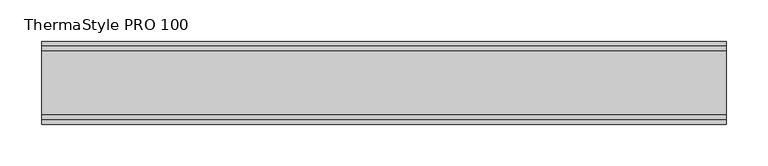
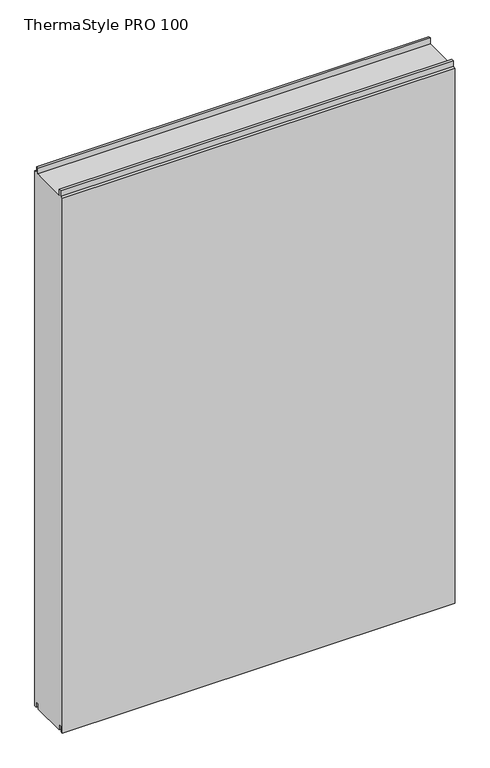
"""IFC4 building model written with IfcOpenShell, lengths in millimetres: plate geometry, Europanels_ThermaStyle PRO_Hz : ThermaStyle PRO 100."""

from ifc_helpers import new_model, si_unit, frame, origin, place, context, project, spatial, polyline, outline, extrude, source, transform, mapped, element, save


def thermastyle_pro_100_359290db(model_context):
    return source(origin(), model_context, "Body", "SweptSolid", [
        extrude(outline(polyline([(50.0, 1189.0), (50.0, 1.0), (45.0, 1.0), (45.0, 12.9552971), (37.8855682, 12.9552971), (37.8855682, 1.0), (-37.8855682, 1.0), (-37.8855682, 12.9552971), (-45.0, 12.9552971), (-45.0, 1.0), (-50.0, 1.0), (-50.0, 1189.0), (-44.0, 1189.0), (-44.0, 1201.9631544), (-38.8855682, 1201.9631544), (-38.8855682, 1189.0), (38.8855682, 1189.0), (38.8855682, 1201.9631544), (44.0, 1201.9631544), (44.0, 1189.0), (50.0, 1189.0)])), frame((-412.5, 0.0, 0.0), z_axis=(1.0, 0.0, 0.0), x_axis=(0.0, 1.0, 0.0)), (0.0, 0.0, 1.0), 825.0),
    ])


if __name__ == "__main__":
    model = new_model("IFC4")
    model_context = context("Model", 3, world=origin())
    ifc_project = project(units=[si_unit("LENGTHUNIT", "METRE", prefix="MILLI")], contexts=[model_context])
    site = spatial("IfcSite", under=ifc_project)
    building = spatial("IfcBuilding", under=site)
    placement = place(None, origin())
    thermastyle_pro_100_shape = thermastyle_pro_100_359290db(model_context)
    element("IfcPlate", 1, ObjectType="Europanels_ThermaStyle PRO_Hz : ThermaStyle PRO 100", at=placement, inside=building, context=model_context, shape_type="MappedRepresentation", body=[
        mapped(thermastyle_pro_100_shape, transform((0.0, 0.0, 0.0), x_axis=(1.0, 0.0, 0.0), y_axis=(0.0, 1.0, 0.0), z_axis=(0.0, 0.0, 1.0))),
    ])
    save(model, "model.ifc")
